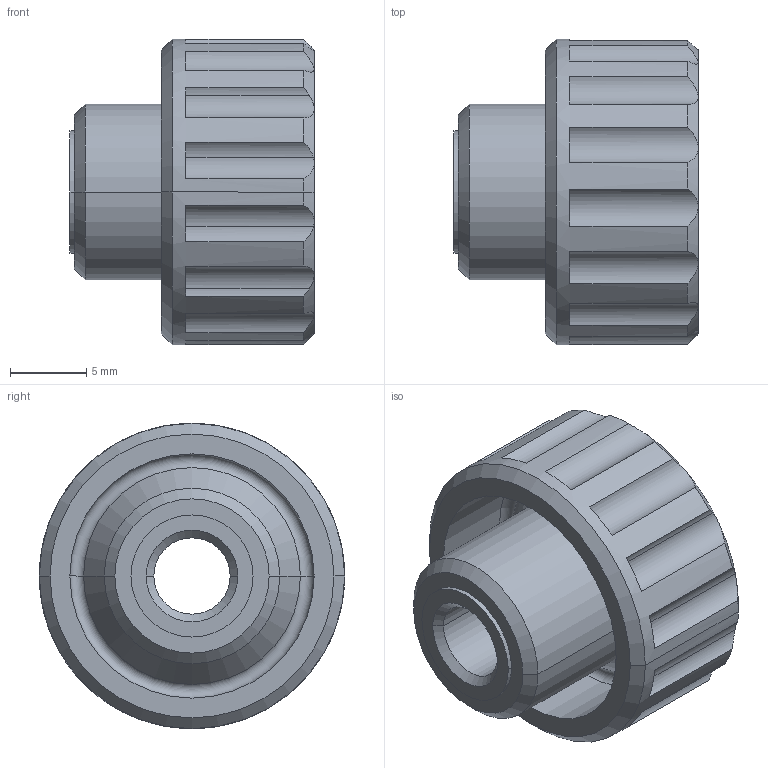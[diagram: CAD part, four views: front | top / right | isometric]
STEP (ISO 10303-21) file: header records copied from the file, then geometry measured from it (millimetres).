
FILE_DESCRIPTION (( 'STEP AP214' ), '1' );
FILE_NAME ('590-20-M6-D-ESD.step', '2025-06-16T12:57:13', ( '' ), ( '' ), 'SwSTEP 2.0', 'SolidWorks 2022', '' );
FILE_SCHEMA (( 'AUTOMOTIVE_DESIGN' ));
Length unit declared in the file: millimetre
Products named in the file (1): 590-20-M6-D-ESD
Bounding box: 16 x 20 x 20 mm (x, y, z)
Volume: 2322.6 mm3; surface area: 2139.7 mm2
Topology: 1 solids, 1 shells, 82 faces, 198 edges, 122 vertices
Faces by surface type: cylinder 33, cone 26, plane 21, torus 2
Entity records: 2707 total; most frequent: CARTESIAN_POINT 645, DIRECTION 435, ORIENTED_EDGE 396, EDGE_CURVE 198, AXIS2_PLACEMENT_3D 188, VERTEX_POINT 122, CIRCLE 105, EDGE_LOOP 88
